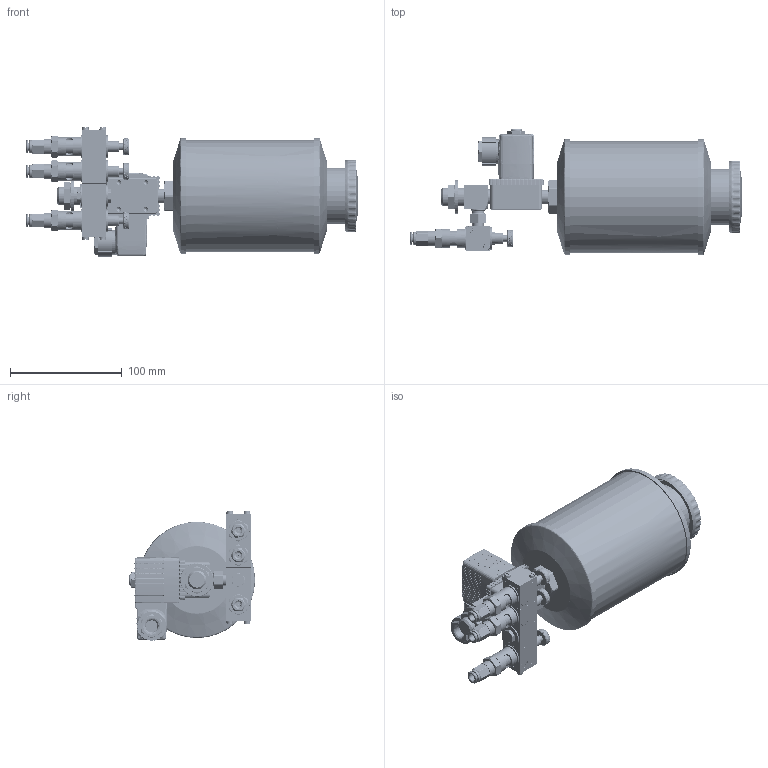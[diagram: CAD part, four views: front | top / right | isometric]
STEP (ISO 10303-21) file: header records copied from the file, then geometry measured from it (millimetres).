
FILE_DESCRIPTION (( 'STEP AP214' ), '1' );
FILE_NAME ('TRO_03_01_03_XXX.STEP', '2025-11-24T10:36:30', ( '' ), ( '' ), 'SwSTEP 2.0', 'SolidWorks 2022', '' );
FILE_SCHEMA (( 'AUTOMOTIVE_DESIGN' ));
Length unit declared in the file: millimetre
Products named in the file (20): TRO_2er_mittel; OR 7.2X1.9_1; OR 7.66X1.78; TRO_1er_Mit_Verschr.SLDPRT; TRO_2er_mittel_Mit_Verschr.SLDPRT; TRO_03_01_03_XXX; TRO_Endplatte; TRO_Stutzen.SLDPRT; TRO_Magnetventil_Stecker; DR6-C_HDX_25.07.16; DR6_NEU; R200107-N1; TRO_Magnetventil_aktuell; TRO_Magnetventil_ohne; TRO_2er; RIVOLUZIONE_0; TRO_Behaelter_01; 9911 0701 0601_6_1_8_HD
Assembly tree (18 placements, depth 4):
  OR 7.2X1.9_1
  TRO_03_01_03_XXX
    TRO_Behaelter_01
    TRO_2er_mittel_Mit_Verschr.SLDPRT
      TRO_Stutzen.SLDPRT
        TRO_2er_mittel
      TRO_2er
      9911 0701 0601_6_1_8_HD  x2
        RIVOLUZIONE_0
        OR 7.66X1.78
        DR6-C_HDX_25.07.16
    TRO_Endplatte  x2
    TRO_1er_Mit_Verschr.SLDPRT
      TRO_2er
      9911 0701 0601_6_1_8_HD
        RIVOLUZIONE_0
        OR 7.66X1.78
        DR6-C_HDX_25.07.16
    TRO_Magnetventil_aktuell
      TRO_Magnetventil_ohne
      TRO_Magnetventil_Stecker
  DR6_NEU
  R200107-N1
  TRO_2er_mittel
Bounding box: 296.51 x 112.7 x 115.79 mm (x, y, z)
Volume: 373529.3 mm3; surface area: 231060.4 mm2
Topology: 23 solids, 23 shells, 6549 faces, 17072 edges, 10647 vertices
Faces by surface type: plane 2580, bspline 2326, cylinder 1001, cone 639, torus 3
Full cylindrical faces by diameter (mm): 1.5 x3, 2 x3, 3.5 x7, 3.8 x3, 4.2 x3, 4.5 x3, 5.5 x4, 5.9 x6, 6 x2, 6.2 x3, 6.25 x1, 6.3 x3, 6.75 x1, 7 x4, 7.2 x3, 7.4 x1, 8 x2, 8.3 x3, 8.4 x1, 8.5 x1, 8.6 x6, 8.8 x1, 9 x4, 9.2 x1, 9.5 x3, 9.728 x3, 9.8 x1, 9.9 x3, 10 x10, 10.1 x1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
Entity records: 315506 total; most frequent: CARTESIAN_POINT 172984, ORIENTED_EDGE 32244, DIRECTION 18604, EDGE_CURVE 16122, VERTEX_POINT 10235, B_SPLINE_CURVE_WITH_KNOTS 7572, AXIS2_PLACEMENT_3D 6990, EDGE_LOOP 6979
